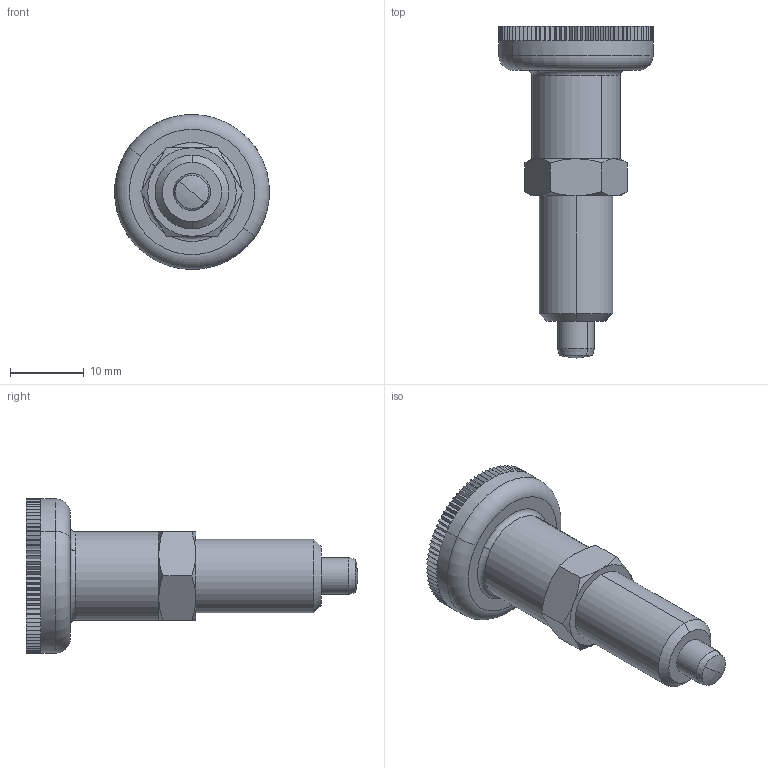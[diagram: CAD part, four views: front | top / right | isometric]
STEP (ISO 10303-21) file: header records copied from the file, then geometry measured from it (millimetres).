
FILE_DESCRIPTION (( 'STEP AP203' ), '1' );
FILE_NAME ('32700.W0405.step', '2011-03-28T12:00:06', ( 'Wixroyd' ), ( 'Wixroyd' ), 'SwSTEP 2.0', 'SolidWorks 2009', '' );
FILE_SCHEMA (( 'CONFIG_CONTROL_DESIGN' ));
Length unit declared in the file: millimetre
Products named in the file (5): 32700.W0405; Part1_3270.W405; Part2_3270.W405; Part3_3270.W405; Part4_3270.W405
Assembly tree (4 placements, depth 2):
  32700.W0405
    Part2_3270.W405
    Part1_3270.W405
    Part3_3270.W405
    Part4_3270.W405
Bounding box: 21 x 45 x 21 mm (x, y, z)
Volume: 4857 mm3; surface area: 3743.2 mm2
Topology: 4 solids, 4 shells, 435 faces, 1052 edges, 634 vertices
Faces by surface type: plane 381, cylinder 26, cone 20, sphere 4, torus 4
Entity records: 12991 total; most frequent: CARTESIAN_POINT 2248, DIRECTION 2150, ORIENTED_EDGE 2104, EDGE_CURVE 1052, LINE 790, VECTOR 790, AXIS2_PLACEMENT_3D 680, VERTEX_POINT 634
